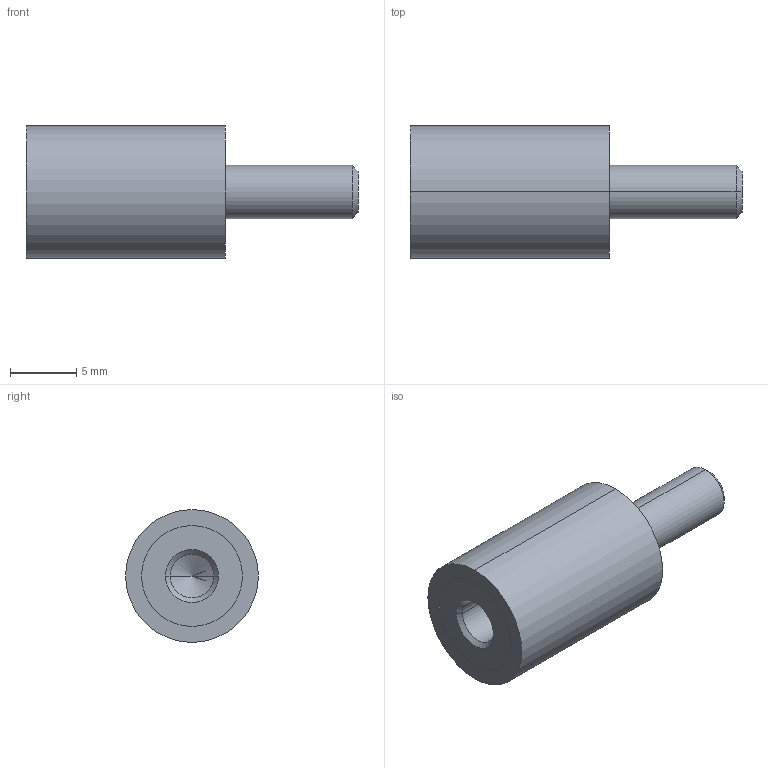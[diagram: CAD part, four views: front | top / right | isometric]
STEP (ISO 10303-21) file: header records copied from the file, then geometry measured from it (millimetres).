
FILE_DESCRIPTION (( 'STEP AP214' ), '1' );
FILE_NAME ('351-10-15-M4-ES-55.step', '2025-07-23T09:49:27', ( '' ), ( '' ), 'SwSTEP 2.0', 'SolidWorks 2022', '' );
FILE_SCHEMA (( 'AUTOMOTIVE_DESIGN' ));
Length unit declared in the file: millimetre
Products named in the file (1): 351-10-15-M4-ES-55
Bounding box: 25 x 10 x 10 mm (x, y, z)
Volume: 1255.9 mm3; surface area: 802 mm2
Topology: 1 solids, 1 shells, 24 faces, 48 edges, 29 vertices
Faces by surface type: cylinder 12, cone 6, plane 6
Entity records: 740 total; most frequent: DIRECTION 124, CARTESIAN_POINT 100, ORIENTED_EDGE 92, AXIS2_PLACEMENT_3D 53, EDGE_CURVE 46, EDGE_LOOP 29, VERTEX_POINT 29, CIRCLE 28
